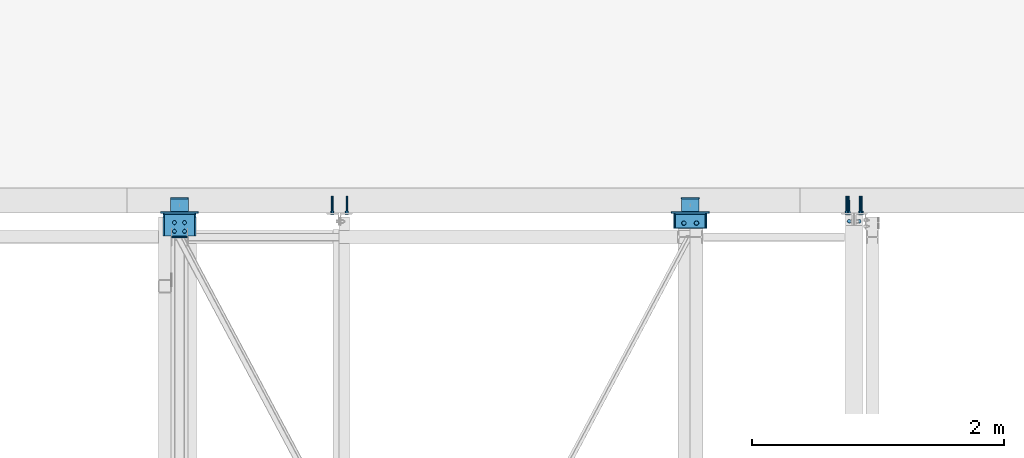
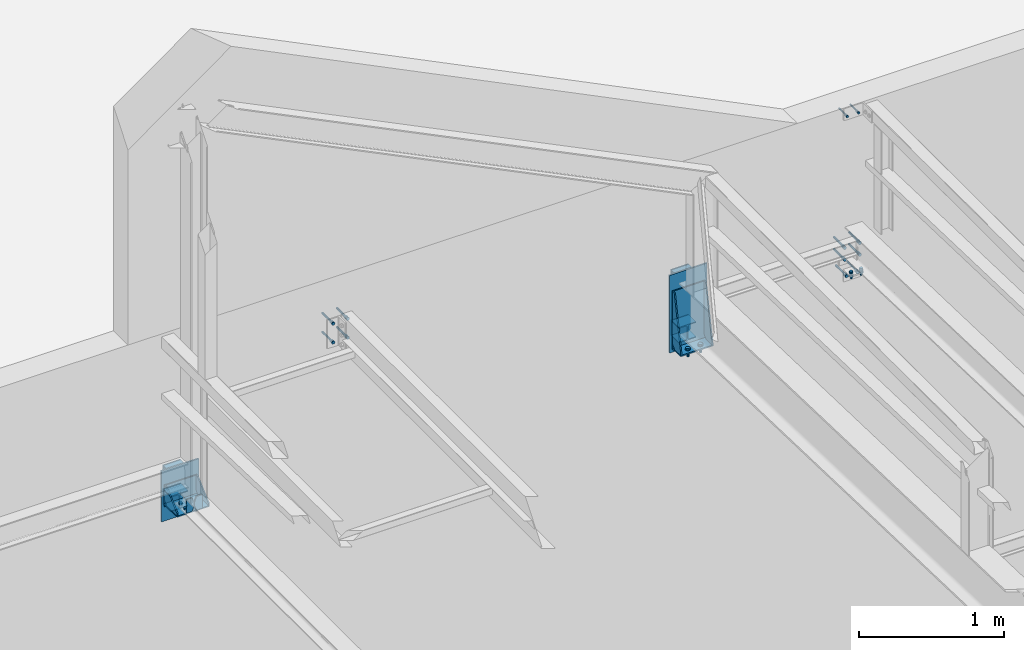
# One storey, part 92 of 123: 20 discrete accessories, 9 mechanical fasteners, 11 elements without a shape of their own.
"""IFC2X3 building model written with IfcOpenShell, lengths in millimetres."""

from ifc_helpers import new_model, si_unit, frame, frame_2d, origin_with_axes, origin_2d_with_axis, place, context, subcontext, project, spatial, polyline, circle_curve, parameter, trimmed, segment, composite_curve, circle, i_section, outline, extrude, source, transform, mapped, material, type_object, element, aggregate, save


model = new_model("IFC2X3")

# Units and contexts
model_context = context("Model", 3, precision=1e-05, world=origin_with_axes())
body_context = subcontext(model_context, "Body", "Model", "MODEL_VIEW")
ifc_project = project(units=[si_unit("LENGTHUNIT", "METRE", prefix="MILLI"), si_unit("AREAUNIT", "SQUARE_METRE"), si_unit("VOLUMEUNIT", "CUBIC_METRE"), si_unit("MASSUNIT", "GRAM", prefix="KILO"), si_unit("TIMEUNIT", "SECOND"), si_unit("PLANEANGLEUNIT", "RADIAN"), si_unit("SOLIDANGLEUNIT", "STERADIAN"), si_unit("THERMODYNAMICTEMPERATUREUNIT", "DEGREE_CELSIUS"), si_unit("LUMINOUSINTENSITYUNIT", "LUMEN")], contexts=[model_context])

# Site, building, storey
site_placement = place(None, origin_with_axes())
site = spatial("IfcSite", under=ifc_project, at=site_placement, Name="Undefined", CompositionType="ELEMENT")
building_placement = place(site_placement, origin_with_axes())
building = spatial("IfcBuilding", under=site, at=building_placement, Name="Undefined", CompositionType="ELEMENT")
storey_placement = place(building_placement, origin_with_axes())
storey = spatial("IfcBuildingStorey", under=building, at=storey_placement, Name="Undefined", CompositionType="ELEMENT", Elevation=0.0)

# Assembly, discrete accessories
assembly_1_placement = place(storey_placement, origin_with_axes())
assembly_1 = element("IfcElementAssembly", 1, at=assembly_1_placement, inside=storey, Name="Steel Assembly", AssemblyPlace="NOTDEFINED", PredefinedType="RIGID_FRAME")
ifc_material_1 = material(Name="STEEL/S235-E24")
discrete_accessory_type_1 = type_object("IfcDiscreteAccessoryType", Name="RAIDISSEUR")
discrete_accessory_1_placement = place(assembly_1_placement, frame((34342.749999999, 15200.0000001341, 7126.5), z_axis=(0.0, 1.0, 0.0), x_axis=(-1.0, 0.0, 0.0)))
discrete_accessory_1 = element("IfcDiscreteAccessory", 2, at=discrete_accessory_1_placement, type_object=discrete_accessory_type_1, material=ifc_material_1, Name="RAIDISSEUR", ObjectType="TOLE10*60", context=body_context, shape_type="SweptSolid", body=[
    extrude(outline(polyline([(0.0, 0.0), (45.0, 0.0), (60.0, 40.0), (60.0, 74.0), (45.0, 114.0), (0.0, 114.0), (0.0, 0.0)])), frame((0.0, 0.0, -5.0), z_axis=(0.0, 0.0, 1.0), x_axis=(1.0, 0.0, 0.0)), (0.0, 0.0, 1.0), 10.0),
])
discrete_accessory_2_placement = place(assembly_1_placement, frame((34277.249999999, 15200.000000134, 7126.5), z_axis=(0.0, 1.0, 0.0), x_axis=(-1.0, 0.0, 0.0)))
discrete_accessory_2 = element("IfcDiscreteAccessory", 3, at=discrete_accessory_2_placement, type_object=discrete_accessory_type_1, material=ifc_material_1, Name="RAIDISSEUR", ObjectType="TOLE10*60", context=body_context, shape_type="SweptSolid", body=[
    extrude(outline(polyline([(0.0, 40.0), (15.0, 0.0), (60.0, 0.0), (60.0, 114.0), (15.0, 114.0), (0.0, 74.0), (0.0, 40.0)])), frame((0.0, 0.0, -5.0), z_axis=(0.0, 0.0, 1.0), x_axis=(1.0, 0.0, 0.0)), (0.0, 0.0, 1.0), 10.0),
])
aggregate(assembly_1, [discrete_accessory_1, discrete_accessory_2])

assembly_2_placement = place(storey_placement, origin_with_axes())
assembly_2 = element("IfcElementAssembly", 4, at=assembly_2_placement, inside=storey, Name="Steel Assembly", AssemblyPlace="NOTDEFINED", PredefinedType="RIGID_FRAME")
discrete_accessory_3_placement = place(assembly_2_placement, frame((34154.9999999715, 15210.0000006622, 7117.00000133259), z_axis=(-1.0, 0.0, 0.0), x_axis=(0.0, 0.0, 1.0)))
discrete_accessory_3 = element("IfcDiscreteAccessory", 5, at=discrete_accessory_3_placement, type_object=discrete_accessory_type_1, material=ifc_material_1, Name="RAIDISSEUR", ObjectType="PL10*155", context=body_context, shape_type="SweptSolid", body=[
    extrude(outline(polyline([(0.0, 0.0), (19.999999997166, 0.0), (154.999206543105, 150.000000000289), (154.999145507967, 170.000000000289), (29.9999970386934, 170.00000000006), (-2.43872305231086e-06, 140.000000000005), (0.0, 0.0)])), frame((0.0, 0.0, -5.0), z_axis=(0.0, 0.0, 1.0), x_axis=(1.0, 0.0, 0.0)), (0.0, 0.0, 1.0), 10.0),
])
discrete_accessory_4_placement = place(assembly_2_placement, frame((34404.9999999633, 15210.0000006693, 7117.0000013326), z_axis=(-1.0, 0.0, 0.0), x_axis=(0.0, 0.0, 1.0)))
discrete_accessory_4 = element("IfcDiscreteAccessory", 6, at=discrete_accessory_4_placement, type_object=discrete_accessory_type_1, material=ifc_material_1, Name="RAIDISSEUR", ObjectType="PL10*155", context=body_context, shape_type="SweptSolid", body=[
    extrude(outline(polyline([(0.0, 0.0), (19.999999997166, 0.0), (154.999206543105, 150.000000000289), (154.999145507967, 170.000000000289), (29.9999970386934, 170.00000000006), (-2.43872305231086e-06, 140.000000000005), (0.0, 0.0)])), frame((0.0, 0.0, -5.0), z_axis=(0.0, 0.0, 1.0), x_axis=(1.0, 0.0, 0.0)), (0.0, 0.0, 1.0), 10.0),
])

assembly_3_placement = place(storey_placement, origin_with_axes())
assembly_3 = element("IfcElementAssembly", 7, at=assembly_3_placement, inside=storey, Name="Steel Assembly", AssemblyPlace="NOTDEFINED", PredefinedType="RIGID_FRAME")
discrete_accessory_5_placement = place(assembly_3_placement, frame((38205.000000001, 15270.0548391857, 7016.48323382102), z_axis=(-1.0, 0.0, 0.0), x_axis=(0.0, 0.0348994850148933, 0.999390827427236)))
discrete_accessory_5 = element("IfcDiscreteAccessory", 8, at=discrete_accessory_5_placement, type_object=discrete_accessory_type_1, material=ifc_material_1, Name="RAIDISSEUR", ObjectType="PL10*110", context=body_context, shape_type="SweptSolid", body=[
    extrude(outline(polyline([(0.0, 0.0), (19.999999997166, 0.0), (476.425659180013, 73.3628463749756), (477.123596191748, 93.3506622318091), (29.981340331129, 108.965207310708), (-0.000279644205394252, 80.0121917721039), (0.0, 0.0)])), frame((0.0, 0.0, -5.0), z_axis=(0.0, 0.0, 1.0), x_axis=(1.0, 0.0, 0.0)), (0.0, 0.0, 1.0), 10.0),
])
discrete_accessory_6_placement = place(assembly_3_placement, frame((38454.9999999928, 15270.0548391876, 7016.48323382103), z_axis=(-1.0, 0.0, 0.0), x_axis=(0.0, 0.0348994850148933, 0.999390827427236)))
discrete_accessory_6 = element("IfcDiscreteAccessory", 9, at=discrete_accessory_6_placement, type_object=discrete_accessory_type_1, material=ifc_material_1, Name="RAIDISSEUR", ObjectType="PL10*110", context=body_context, shape_type="SweptSolid", body=[
    extrude(outline(polyline([(0.0, 0.0), (19.999999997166, 0.0), (476.425659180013, 73.3628463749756), (477.123596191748, 93.3506622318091), (29.981340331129, 108.965207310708), (-0.000279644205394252, 80.0121917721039), (0.0, 0.0)])), frame((0.0, 0.0, -5.0), z_axis=(0.0, 0.0, 1.0), x_axis=(1.0, 0.0, 0.0)), (0.0, 0.0, 1.0), 10.0),
])

# Discrete accessory
discrete_accessory_type_2 = type_object("IfcDiscreteAccessoryType", Name="SABOT")
discrete_accessory_7_placement = place(assembly_2_placement, frame((34279.9999999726, 15380.0000003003, 7112.00000133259), z_axis=(0.0, 0.0, -1.0), x_axis=(0.0, -1.0, 0.0)))
discrete_accessory_7 = element("IfcDiscreteAccessory", 10, at=discrete_accessory_7_placement, type_object=discrete_accessory_type_2, material=ifc_material_1, Name="SABOT", ObjectType="PL10*260", context=body_context, shape_type="SweptSolid", body=[
    extrude(outline(polyline([(169.99999962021, 130.0), (169.99999962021, -130.0), (0.0, -130.0), (0.0, 130.0), (169.99999962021, 130.0)])), frame((0.0, 0.0, -5.0), z_axis=(0.0, 0.0, 1.0), x_axis=(1.0, 0.0, 0.0)), (0.0, 0.0, 1.0), 10.0),
])

discrete_accessory_8_placement = place(assembly_2_placement, frame((34279.9999999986, 15385.0000003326, 7271.99914127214), z_axis=(0.0, 1.0, 0.0), x_axis=(0.0, 0.0, -1.0)))
discrete_accessory_8 = element("IfcDiscreteAccessory", 11, at=discrete_accessory_8_placement, type_object=discrete_accessory_type_2, material=ifc_material_1, Name="SABOT", ObjectType="PL10*260", context=body_context, shape_type="SweptSolid", body=[
    extrude(outline(polyline([(180.000836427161, 130.0), (180.000836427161, -130.0), (0.0, -130.0), (0.0, 130.0), (180.000836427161, 130.0)])), frame((0.0, 0.0, -5.0), z_axis=(0.0, 0.0, 1.0), x_axis=(1.0, 0.0, 0.0)), (0.0, 0.0, 1.0), 10.0),
])

discrete_accessory_9_placement = place(assembly_3_placement, frame((38329.9999999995, 15379.8254852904, 7007.64652722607), z_axis=(0.0, -0.0349029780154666, -0.999390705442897), x_axis=(0.0, -0.999390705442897, 0.0349029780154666)))
discrete_accessory_9 = element("IfcDiscreteAccessory", 12, at=discrete_accessory_9_placement, type_object=discrete_accessory_type_2, material=ifc_material_1, Name="SABOT", ObjectType="PL10*260", context=body_context, shape_type="SweptSolid", body=[
    extrude(outline(polyline([(110.012190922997, 130.0), (110.012190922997, -130.0), (0.0, -130.0), (0.0, 130.0), (110.012190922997, 130.0)])), frame((0.0, 0.0, -5.0), z_axis=(0.0, 0.0, 1.0), x_axis=(1.0, 0.0, 0.0)), (0.0, 0.0, 1.0), 10.0),
])

discrete_accessory_10_placement = place(assembly_3_placement, frame((38330.0000000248, 15385.0000003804, 7490.05830350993), z_axis=(0.0, 1.0, 0.0), x_axis=(0.0, 0.0, -1.0)))
discrete_accessory_10 = element("IfcDiscreteAccessory", 13, at=discrete_accessory_10_placement, type_object=discrete_accessory_type_2, material=ifc_material_1, Name="SABOT", ObjectType="PL10*260", context=body_context, shape_type="SweptSolid", body=[
    extrude(outline(polyline([(494.999999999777, 130.0), (494.999999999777, -130.0), (0.0, -130.0), (0.0, 130.0), (494.999999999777, 130.0)])), frame((0.0, 0.0, -5.0), z_axis=(0.0, 0.0, 1.0), x_axis=(1.0, 0.0, 0.0)), (0.0, 0.0, 1.0), 10.0),
])

# Assembly, discrete accessories
assembly_4_placement = place(storey_placement, origin_with_axes())
assembly_4 = element("IfcElementAssembly", 14, at=assembly_4_placement, inside=storey, Name="Steel Assembly", AssemblyPlace="NOTDEFINED", PredefinedType="RIGID_FRAME")
discrete_accessory_type_3 = type_object("IfcDiscreteAccessoryType", Name="PLAT")
discrete_accessory_11_placement = place(assembly_4_placement, frame((34280.0000000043, 15507.0000000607, 7146.49830350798), z_axis=(0.0, 1.0, 0.0), x_axis=(0.0, 0.0, -1.0)))
discrete_accessory_11 = element("IfcDiscreteAccessory", 15, at=discrete_accessory_11_placement, type_object=discrete_accessory_type_3, material=ifc_material_1, Name="PLAT", ObjectType="PL10*140", context=body_context, shape_type="SweptSolid", body=[
    extrude(outline(polyline([(132.999999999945, 70.0), (132.999999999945, -70.0), (0.0, -70.0), (0.0, 70.0), (132.999999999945, 70.0)])), frame((0.0, 0.0, -5.0), z_axis=(0.0, 0.0, 1.0), x_axis=(1.0, 0.0, 0.0)), (0.0, 0.0, 1.0), 10.0),
])
discrete_accessory_12_placement = place(assembly_4_placement, frame((34280.0000000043, 15507.0000000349, 7346.49830350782), z_axis=(0.0, 1.0, 0.0), x_axis=(0.0, 0.0, -1.0)))
discrete_accessory_12 = element("IfcDiscreteAccessory", 16, at=discrete_accessory_12_placement, type_object=discrete_accessory_type_3, material=ifc_material_1, Name="PLAT", ObjectType="PL10*140", context=body_context, shape_type="SweptSolid", body=[
    extrude(outline(polyline([(132.999999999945, 70.0), (132.999999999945, -70.0), (0.0, -70.0), (0.0, 70.0), (132.999999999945, 70.0)])), frame((0.0, 0.0, -5.0), z_axis=(0.0, 0.0, 1.0), x_axis=(1.0, 0.0, 0.0)), (0.0, 0.0, 1.0), 10.0),
])

assembly_5_placement = place(storey_placement, origin_with_axes())
assembly_5 = element("IfcElementAssembly", 17, at=assembly_5_placement, inside=storey, Name="Steel Assembly", AssemblyPlace="NOTDEFINED", PredefinedType="RIGID_FRAME")
discrete_accessory_13_placement = place(assembly_5_placement, frame((38330.0000000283, 15507.0000002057, 7151.49830350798), z_axis=(0.0, 1.0, 0.0), x_axis=(0.0, 0.0, -1.0)))
discrete_accessory_13 = element("IfcDiscreteAccessory", 18, at=discrete_accessory_13_placement, type_object=discrete_accessory_type_3, material=ifc_material_1, Name="PLAT", ObjectType="PL10*140", context=body_context, shape_type="SweptSolid", body=[
    extrude(outline(polyline([(132.999999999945, 70.0), (132.999999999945, -70.0), (0.0, -70.0), (0.0, 70.0), (132.999999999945, 70.0)])), frame((0.0, 0.0, -5.0), z_axis=(0.0, 0.0, 1.0), x_axis=(1.0, 0.0, 0.0)), (0.0, 0.0, 1.0), 10.0),
])
discrete_accessory_14_placement = place(assembly_5_placement, frame((38330.0000000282, 15507.0000002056, 7576.49830350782), z_axis=(0.0, 1.0, 0.0), x_axis=(0.0, 0.0, -1.0)))
discrete_accessory_14 = element("IfcDiscreteAccessory", 19, at=discrete_accessory_14_placement, type_object=discrete_accessory_type_3, material=ifc_material_1, Name="PLAT", ObjectType="PL10*140", context=body_context, shape_type="SweptSolid", body=[
    extrude(outline(polyline([(132.999999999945, 70.0), (132.999999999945, -70.0), (0.0, -70.0), (0.0, 70.0), (132.999999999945, 70.0)])), frame((0.0, 0.0, -5.0), z_axis=(0.0, 0.0, 1.0), x_axis=(1.0, 0.0, 0.0)), (0.0, 0.0, 1.0), 10.0),
])

# Discrete accessory
ifc_material_2 = material(Name="STEEL/S275-E28")
discrete_accessory_type_4 = type_object("IfcDiscreteAccessoryType", Name="BECHE")
discrete_accessory_15_placement = place(assembly_4_placement, frame((34280.000000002, 15402.0000000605, 7079.99830350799), z_axis=(0.0, 0.0, 1.0), x_axis=(0.0, 1.0, 0.0)))
discrete_accessory_15 = element("IfcDiscreteAccessory", 20, at=discrete_accessory_15_placement, type_object=discrete_accessory_type_4, material=ifc_material_2, Name="BECHE", ObjectType="HEA140", context=body_context, shape_type="SweptSolid", body=[
    extrude(i_section(OverallWidth=140.0, OverallDepth=133.0, WebThickness=5.5, FlangeThickness=8.5, FilletRadius=12.0, at=origin_2d_with_axis()), frame((99.9999999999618, 0.0, 0.0), z_axis=(-1.0, 0.0, 0.0), x_axis=(0.0, -1.0, 0.0)), (0.0, 0.0, 1.0), 100.0),
])

discrete_accessory_16_placement = place(assembly_4_placement, frame((34280.0000000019, 15402.0000000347, 7279.99830350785), z_axis=(0.0, 0.0, 1.0), x_axis=(0.0, 1.0, 0.0)))
discrete_accessory_16 = element("IfcDiscreteAccessory", 21, at=discrete_accessory_16_placement, type_object=discrete_accessory_type_4, material=ifc_material_2, Name="BECHE", ObjectType="HEA140", context=body_context, shape_type="SweptSolid", body=[
    extrude(i_section(OverallWidth=140.0, OverallDepth=133.0, WebThickness=5.5, FlangeThickness=8.5, FilletRadius=12.0, at=origin_2d_with_axis()), frame((99.9999999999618, 0.0, 0.0), z_axis=(-1.0, 0.0, 0.0), x_axis=(0.0, -1.0, 0.0)), (0.0, 0.0, 1.0), 100.0),
])

discrete_accessory_17_placement = place(assembly_5_placement, frame((38330.0000000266, 15402.0000002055, 7084.99830350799), z_axis=(0.0, 0.0, 1.0), x_axis=(0.0, 1.0, 0.0)))
discrete_accessory_17 = element("IfcDiscreteAccessory", 22, at=discrete_accessory_17_placement, type_object=discrete_accessory_type_4, material=ifc_material_2, Name="BECHE", ObjectType="HEA140", context=body_context, shape_type="SweptSolid", body=[
    extrude(i_section(OverallWidth=140.0, OverallDepth=133.0, WebThickness=5.5, FlangeThickness=8.5, FilletRadius=12.0, at=origin_2d_with_axis()), frame((99.9999999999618, 0.0, 0.0), z_axis=(-1.0, 0.0, 0.0), x_axis=(0.0, -1.0, 0.0)), (0.0, 0.0, 1.0), 100.0),
])

discrete_accessory_18_placement = place(assembly_5_placement, frame((38330.0000000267, 15402.0000002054, 7509.99830350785), z_axis=(0.0, 0.0, 1.0), x_axis=(0.0, 1.0, 0.0)))
discrete_accessory_18 = element("IfcDiscreteAccessory", 23, at=discrete_accessory_18_placement, type_object=discrete_accessory_type_4, material=ifc_material_2, Name="BECHE", ObjectType="HEA140", context=body_context, shape_type="SweptSolid", body=[
    extrude(i_section(OverallWidth=140.0, OverallDepth=133.0, WebThickness=5.5, FlangeThickness=8.5, FilletRadius=12.0, at=origin_2d_with_axis()), frame((99.9999999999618, 0.0, 0.0), z_axis=(-1.0, 0.0, 0.0), x_axis=(0.0, -1.0, 0.0)), (0.0, 0.0, 1.0), 100.0),
])

discrete_accessory_type_5 = type_object("IfcDiscreteAccessoryType", Name="PRESCELLEMENT")
discrete_accessory_19_placement = place(assembly_4_placement, frame((34280.0000000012, 15395.9999999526, 7394.99830350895), z_axis=(0.0, 1.0, 0.0), x_axis=(0.0, 0.0, -1.0)))
discrete_accessory_19 = element("IfcDiscreteAccessory", 24, at=discrete_accessory_19_placement, type_object=discrete_accessory_type_5, material=ifc_material_1, Name="PRESCELLEMENT", ObjectType="PL12*300", context=body_context, shape_type="SweptSolid", body=[
    extrude(outline(polyline([(429.999999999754, 150.0), (429.999999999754, -150.0), (0.0, -150.0), (0.0, 150.0), (429.999999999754, 150.0)])), frame((0.0, 0.0, -6.0), z_axis=(0.0, 0.0, 1.0), x_axis=(1.0, 0.0, 0.0)), (0.0, 0.0, 1.0), 12.0),
])

aggregate(assembly_4, [discrete_accessory_11, discrete_accessory_15, discrete_accessory_12, discrete_accessory_16, discrete_accessory_19])

discrete_accessory_20_placement = place(assembly_5_placement, frame((38330.0000000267, 15396.0000001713, 7624.99830350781), z_axis=(0.0, 1.0, 0.0), x_axis=(0.0, 0.0, -1.0)))
discrete_accessory_20 = element("IfcDiscreteAccessory", 25, at=discrete_accessory_20_placement, type_object=discrete_accessory_type_5, material=ifc_material_1, Name="PRESCELLEMENT", ObjectType="PL12*300", context=body_context, shape_type="SweptSolid", body=[
    extrude(outline(polyline([(654.999999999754, 150.0), (654.999999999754, -150.0), (0.0, -150.0), (0.0, 150.0), (654.999999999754, 150.0)])), frame((0.0, 0.0, -6.0), z_axis=(0.0, 0.0, 1.0), x_axis=(1.0, 0.0, 0.0)), (0.0, 0.0, 1.0), 12.0),
])

aggregate(assembly_5, [discrete_accessory_13, discrete_accessory_17, discrete_accessory_14, discrete_accessory_18, discrete_accessory_20])

# Assembly, mechanical fastener
assembly_6_placement = place(storey_placement, origin_with_axes())
assembly_6 = element("IfcElementAssembly", 26, at=assembly_6_placement, inside=storey, Name="Steel Assembly", AssemblyPlace="NOTDEFINED", PredefinedType="RIGID_FRAME")
ifc_material_3 = material(Name="INOX_A4")
discrete_accessory_type_6 = type_object("IfcDiscreteAccessoryType", Name="Bolt assembly")
shared_shape_1 = source(origin_with_axes(), body_context, "Body", "SweptSolid", [
    extrude(circle(Radius=9.0, at=origin_2d_with_axis()), frame((0.0, -9.99988171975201, 0.0), z_axis=(0.0, 1.0, 0.0), x_axis=(1.0, 0.0, 0.0)), (0.0, 0.0, 1.0), 10.1),
    extrude(outline(polyline([(13.85640646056, 0.0), (6.92820323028, 12.0000000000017), (-6.92820323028, 12.0000000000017), (-13.85640646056, 0.0), (-6.92820323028, -12.0000000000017), (6.92820323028, -12.0000000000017), (13.85640646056, 0.0)])), frame((0.0, -16.7998819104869, 0.0), z_axis=(0.0, 1.0, 0.0), x_axis=(1.0, 0.0, 0.0)), (0.0, 0.0, 1.0), 6.8),
    extrude(circle(Radius=8.0, at=origin_2d_with_axis()), frame((0.0, -9.99988171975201, 0.0), z_axis=(0.0, 1.0, 0.0), x_axis=(1.0, 0.0, 0.0)), (0.0, 0.0, 1.0), 146.2),
    extrude(outline(polyline([(13.85640646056, 0.0), (6.92820323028, 12.0000000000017), (-6.92820323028, 12.0000000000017), (-13.85640646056, 0.0), (-6.92820323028, -12.0000000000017), (6.92820323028, -12.0000000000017), (13.85640646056, 0.0)])), frame((0.0, 0.000118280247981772, 0.0), z_axis=(0.0, 1.0, 0.0), x_axis=(1.0, 0.0, 0.0)), (0.0, 0.0, 1.0), 16.0),
])
mechanical_fastener_1_placement = place(assembly_6_placement, frame((35491.4917140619, 15389.9998771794, 8090.00437165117), z_axis=(0.0, 0.0, 1.0), x_axis=(1.0, 0.0, 0.0)))
mechanical_fastener_1 = element("IfcMechanicalFastener", 27, at=mechanical_fastener_1_placement, type_object=discrete_accessory_type_6, material=ifc_material_3, Name="Bolt assembly", NominalDiameter=16.0, NominalLength=146.199996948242, context=body_context, shape_type="MappedRepresentation", body=[
    mapped(shared_shape_1, transform((0.0, 0.0, -80.0))),
    mapped(shared_shape_1, transform((0.0, 0.0, 80.0))),
])
aggregate(assembly_6, [mechanical_fastener_1])

assembly_7_placement = place(storey_placement, origin_with_axes())
assembly_7 = element("IfcElementAssembly", 28, at=assembly_7_placement, inside=storey, Name="Steel Assembly", AssemblyPlace="NOTDEFINED", PredefinedType="RIGID_FRAME")
mechanical_fastener_2_placement = place(assembly_7_placement, frame((35607.4917140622, 15389.999877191, 8090.00437165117), z_axis=(0.0, 0.0, -1.0), x_axis=(-1.0, 0.0, 0.0)))
mechanical_fastener_2 = element("IfcMechanicalFastener", 29, at=mechanical_fastener_2_placement, type_object=discrete_accessory_type_6, material=ifc_material_3, Name="Bolt assembly", NominalDiameter=16.0, NominalLength=146.199996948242, context=body_context, shape_type="MappedRepresentation", body=[
    mapped(shared_shape_1, transform((0.0, 0.0, -80.0))),
    mapped(shared_shape_1, transform((0.0, 0.0, 80.0))),
])
aggregate(assembly_7, [mechanical_fastener_2])

assembly_8_placement = place(storey_placement, origin_with_axes())
assembly_8 = element("IfcElementAssembly", 30, at=assembly_8_placement, inside=storey, Name="Steel Assembly", AssemblyPlace="NOTDEFINED", PredefinedType="RIGID_FRAME")
mechanical_fastener_3_placement = place(assembly_8_placement, frame((39630.000000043, 15389.9998740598, 7137.38960015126), z_axis=(-1.0, 0.0, 0.0), x_axis=(0.0, 0.0, 1.0)))
mechanical_fastener_3 = element("IfcMechanicalFastener", 31, at=mechanical_fastener_3_placement, type_object=discrete_accessory_type_6, material=ifc_material_3, Name="Bolt assembly", NominalDiameter=16.0, NominalLength=146.199996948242, context=body_context, shape_type="MappedRepresentation", body=[
    mapped(shared_shape_1, transform((0.0, 0.0, -45.0))),
    mapped(shared_shape_1, transform((0.0, 0.0, 45.0))),
])

assembly_9_placement = place(storey_placement, origin_with_axes())
assembly_9 = element("IfcElementAssembly", 32, at=assembly_9_placement, inside=storey, Name="Steel Assembly", AssemblyPlace="NOTDEFINED", PredefinedType="RIGID_FRAME")
mechanical_fastener_4_placement = place(assembly_9_placement, frame((39570.0000000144, 15389.9998704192, 7329.93135683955), z_axis=(0.0, 0.0, 1.0), x_axis=(1.0, 0.0, 0.0)))
mechanical_fastener_4 = element("IfcMechanicalFastener", 33, at=mechanical_fastener_4_placement, type_object=discrete_accessory_type_6, material=ifc_material_3, Name="Bolt assembly", NominalDiameter=16.0, NominalLength=146.199996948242, context=body_context, shape_type="MappedRepresentation", body=[
    mapped(shared_shape_1, transform((0.0, 0.0, -50.0))),
    mapped(shared_shape_1, transform((0.0, 0.0, 50.0))),
])
aggregate(assembly_9, [mechanical_fastener_4])

assembly_10_placement = place(storey_placement, origin_with_axes())
assembly_10 = element("IfcElementAssembly", 34, at=assembly_10_placement, inside=storey, Name="Steel Assembly", AssemblyPlace="NOTDEFINED", PredefinedType="RIGID_FRAME")
mechanical_fastener_5_placement = place(assembly_10_placement, frame((39690.0000000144, 15389.9998704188, 7329.93135683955), z_axis=(0.0, 0.0, -1.0), x_axis=(-1.0, 0.0, 0.0)))
mechanical_fastener_5 = element("IfcMechanicalFastener", 35, at=mechanical_fastener_5_placement, type_object=discrete_accessory_type_6, material=ifc_material_3, Name="Bolt assembly", NominalDiameter=16.0, NominalLength=146.199996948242, context=body_context, shape_type="MappedRepresentation", body=[
    mapped(shared_shape_1, transform((0.0, 0.0, -50.0))),
    mapped(shared_shape_1, transform((0.0, 0.0, 50.0))),
])
aggregate(assembly_10, [mechanical_fastener_5])

assembly_11_placement = place(storey_placement, origin_with_axes())
assembly_11 = element("IfcElementAssembly", 36, at=assembly_11_placement, inside=storey, Name="Steel Assembly", AssemblyPlace="NOTDEFINED", PredefinedType="RIGID_FRAME")
shared_shape_2 = source(origin_with_axes(), body_context, "Body", "SweptSolid", [
    extrude(circle(Radius=7.0, at=origin_2d_with_axis()), frame((0.0, -10.0, 0.0), z_axis=(0.0, 1.0, 0.0), x_axis=(1.0, 0.0, 0.0)), (0.0, 0.0, 1.0), 10.1),
    extrude(outline(polyline([(10.39230484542, 0.0), (5.19615242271, 9.00000000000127), (-5.19615242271, 9.00000000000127), (-10.39230484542, 0.0), (-5.19615242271, -9.00000000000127), (5.19615242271, -9.00000000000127), (10.39230484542, 0.0)])), frame((0.0, -16.8000001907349, 0.0), z_axis=(0.0, 1.0, 0.0), x_axis=(1.0, 0.0, 0.0)), (0.0, 0.0, 1.0), 6.8),
    extrude(circle(Radius=6.0, at=origin_2d_with_axis()), frame((0.0, -10.0, 0.0), z_axis=(0.0, 1.0, 0.0), x_axis=(1.0, 0.0, 0.0)), (0.0, 0.0, 1.0), 112.2),
    extrude(outline(polyline([(10.96965511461, 0.0), (5.484827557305, 9.50000000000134), (-5.484827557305, 9.50000000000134), (-10.96965511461, 0.0), (-5.484827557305, -9.50000000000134), (5.484827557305, -9.50000000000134), (10.96965511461, 0.0)])), frame((0.0, 0.0, 0.0), z_axis=(0.0, 1.0, 0.0), x_axis=(1.0, 0.0, 0.0)), (0.0, 0.0, 1.0), 12.0),
])
mechanical_fastener_6_placement = place(assembly_11_placement, frame((39590.0, 15390.0, 8480.0), z_axis=(0.0, 0.0, 1.0), x_axis=(1.0, 0.0, 0.0)))
mechanical_fastener_6 = element("IfcMechanicalFastener", 37, at=mechanical_fastener_6_placement, type_object=discrete_accessory_type_6, material=ifc_material_3, Name="Bolt assembly", NominalDiameter=12.0, NominalLength=112.199996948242, context=body_context, shape_type="MappedRepresentation", body=[
    mapped(shared_shape_2, transform((0.0, 0.0, 0.0))),
    mapped(shared_shape_2, transform((90.0, 0.0, 0.0))),
])
aggregate(assembly_11, [mechanical_fastener_6])

# Mechanical fastener
ifc_material_4 = material(Name="HR10.9")
shared_shape_3 = source(origin_with_axes(), body_context, "Body", "SweptSolid", [
    extrude(circle(Radius=9.0, at=origin_2d_with_axis()), frame((0.0, -8.40000012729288, 0.0), z_axis=(0.0, 1.0, 0.0), x_axis=(1.0, 0.0, 0.0)), (0.0, 0.0, 1.0), 8.5),
    extrude(outline(composite_curve([segment(polyline([(-9.0, 9.0), (9.0, 9.0)]), True, "CONTINUOUS"), segment(trimmed(circle_curve(frame_2d((9.0, 0.0), x_axis=(0.0, 1.0)), 9.0), [parameter(0.0)], [parameter(3.14159265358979)], False, "PARAMETER"), True, "CONTINUOUS"), segment(polyline([(9.0, -9.0), (-9.0, -9.0)]), True, "CONTINUOUS"), segment(trimmed(circle_curve(frame_2d((-9.0, 0.0), x_axis=(0.0, -1.0)), 9.0), [parameter(0.0)], [parameter(3.14159265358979)], False, "PARAMETER"), True, "DISCONTINUOUS")], self_intersect=False)), frame((0.0, -0.100000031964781, 0.0), z_axis=(0.0, 1.0, 0.0), x_axis=(1.0, 0.0, 0.0)), (0.0, 0.0, 1.0), 10.1),
    extrude(outline(polyline([(13.85640646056, 0.0), (6.92820323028, 12.0000000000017), (-6.92820323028, 12.0000000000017), (-13.85640646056, 0.0), (-6.92820323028, -12.0000000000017), (6.92820323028, -12.0000000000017), (13.85640646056, 0.0)])), frame((0.0, -22.5000001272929, 0.0), z_axis=(0.0, 1.0, 0.0), x_axis=(1.0, 0.0, 0.0)), (0.0, 0.0, 1.0), 10.0),
    extrude(circle(Radius=8.0, at=origin_2d_with_axis()), frame((0.0, -12.5000001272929, 0.0), z_axis=(0.0, 1.0, 0.0), x_axis=(1.0, 0.0, 0.0)), (0.0, 0.0, 1.0), 50.0),
    extrude(circle(Radius=15.0, at=origin_2d_with_axis()), frame((0.0, -12.5000001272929, 0.0), z_axis=(0.0, 1.0, 0.0), x_axis=(1.0, 0.0, 0.0)), (0.0, 0.0, 1.0), 4.0),
    extrude(circle(Radius=15.0, at=origin_2d_with_axis()), frame((0.0, 9.99999996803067, 0.0), z_axis=(0.0, 1.0, 0.0), x_axis=(1.0, 0.0, 0.0)), (0.0, 0.0, 1.0), 4.0),
    extrude(outline(polyline([(15.58845726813, 0.0), (7.794228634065, 13.5000000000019), (-7.794228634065, 13.5000000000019), (-15.58845726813, 0.0), (-7.794228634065, -13.5000000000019), (7.794228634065, -13.5000000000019), (15.58845726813, 0.0)])), frame((0.0, 13.9999999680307, 0.0), z_axis=(0.0, 1.0, 0.0), x_axis=(1.0, 0.0, 0.0)), (0.0, 0.0, 1.0), 15.0),
])
mechanical_fastener_7_placement = place(assembly_2_placement, frame((34279.9999999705, 15245.0000007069, 7116.99999987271), z_axis=(-1.0, 0.0, 0.0), x_axis=(0.0, 1.0, 0.0)))
mechanical_fastener_7 = element("IfcMechanicalFastener", 38, at=mechanical_fastener_7_placement, type_object=discrete_accessory_type_6, material=ifc_material_4, Name="Bolt assembly", NominalDiameter=16.0, NominalLength=50.0, context=body_context, shape_type="MappedRepresentation", body=[
    mapped(shared_shape_3, transform((0.0, 0.0, -40.0))),
    mapped(shared_shape_3, transform((70.0, 0.0, -40.0))),
    mapped(shared_shape_3, transform((0.0, 0.0, 40.0))),
    mapped(shared_shape_3, transform((70.0, 0.0, 40.0))),
])

aggregate(assembly_2, [mechanical_fastener_7, discrete_accessory_3, discrete_accessory_4, discrete_accessory_7, discrete_accessory_8])

shared_shape_4 = source(origin_with_axes(), body_context, "Body", "SweptSolid", [
    extrude(circle(Radius=11.0, at=origin_2d_with_axis()), frame((0.0, 0.000118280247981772, 0.0), z_axis=(0.0, 1.0, 0.0), x_axis=(1.0, 0.0, 0.0)), (0.0, 0.0, 1.0), 10.1),
    extrude(outline(polyline([(17.3205080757, 0.0), (8.66025403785, 15.0000000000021), (-8.66025403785, 15.0000000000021), (-17.3205080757, 0.0), (-8.66025403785, -15.0000000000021), (8.66025403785, -15.0000000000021), (17.3205080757, 0.0)])), frame((0.0, -16.9998602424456, 0.0), z_axis=(0.0, 1.0, 0.0), x_axis=(1.0, 0.0, 0.0)), (0.0, 0.0, 1.0), 13.0),
    extrude(circle(Radius=10.0, at=origin_2d_with_axis()), frame((0.0, -3.99986024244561, 0.0), z_axis=(0.0, 1.0, 0.0), x_axis=(1.0, 0.0, 0.0)), (0.0, 0.0, 1.0), 60.0),
    extrude(circle(Radius=18.5, at=origin_2d_with_axis()), frame((0.0, -3.99986024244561, 0.0), z_axis=(0.0, 1.0, 0.0), x_axis=(1.0, 0.0, 0.0)), (0.0, 0.0, 1.0), 4.0),
    extrude(circle(Radius=18.5, at=origin_2d_with_axis()), frame((0.0, 10.0001397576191, 0.0), z_axis=(0.0, 1.0, 0.0), x_axis=(1.0, 0.0, 0.0)), (0.0, 0.0, 1.0), 4.0),
    extrude(outline(polyline([(18.47520861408, 0.0), (9.23760430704, 16.0000000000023), (-9.23760430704, 16.0000000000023), (-18.47520861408, 0.0), (-9.23760430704, -16.0000000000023), (9.23760430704, -16.0000000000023), (18.47520861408, 0.0)])), frame((0.0, 14.0001397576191, 0.0), z_axis=(0.0, 1.0, 0.0), x_axis=(1.0, 0.0, 0.0)), (0.0, 0.0, 1.0), 18.0),
])
mechanical_fastener_8_placement = place(assembly_3_placement, frame((38329.9999999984, 15310.0304723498, 7015.0872543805), z_axis=(-1.0, 0.0, 0.0), x_axis=(0.0, 0.999390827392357, -0.0348994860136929)))
mechanical_fastener_8 = element("IfcMechanicalFastener", 39, at=mechanical_fastener_8_placement, type_object=discrete_accessory_type_6, material=ifc_material_4, Name="Bolt assembly", NominalDiameter=20.0, NominalLength=60.0, context=body_context, shape_type="MappedRepresentation", body=[
    mapped(shared_shape_4, transform((0.0, 0.0, -50.0))),
    mapped(shared_shape_4, transform((0.0, 0.0, 50.0))),
])

aggregate(assembly_3, [mechanical_fastener_8, discrete_accessory_5, discrete_accessory_6, discrete_accessory_9, discrete_accessory_10])

shared_shape_5 = source(origin_with_axes(), body_context, "Body", "SweptSolid", [
    extrude(circle(Radius=9.0, at=origin_2d_with_axis()), frame((0.0, 0.0, 0.0), z_axis=(0.0, 1.0, 0.0), x_axis=(1.0, 0.0, 0.0)), (0.0, 0.0, 1.0), 10.1),
    extrude(outline(polyline([(13.85640646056, 0.0), (6.92820323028, 12.0000000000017), (-6.92820323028, 12.0000000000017), (-13.85640646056, 0.0), (-6.92820323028, -12.0000000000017), (6.92820323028, -12.0000000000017), (13.85640646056, 0.0)])), frame((0.0, -13.9999978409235, 0.0), z_axis=(0.0, 1.0, 0.0), x_axis=(1.0, 0.0, 0.0)), (0.0, 0.0, 1.0), 10.0),
    extrude(circle(Radius=8.0, at=origin_2d_with_axis()), frame((0.0, -4.00000022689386, 0.0), z_axis=(0.0, 1.0, 0.0), x_axis=(1.0, 0.0, 0.0)), (0.0, 0.0, 1.0), 50.0),
    extrude(circle(Radius=15.0, at=origin_2d_with_axis()), frame((0.0, -4.00000022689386, 0.0), z_axis=(0.0, 1.0, 0.0), x_axis=(1.0, 0.0, 0.0)), (0.0, 0.0, 1.0), 4.0),
    extrude(circle(Radius=15.0, at=origin_2d_with_axis()), frame((0.0, 9.99999996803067, 0.0), z_axis=(0.0, 1.0, 0.0), x_axis=(1.0, 0.0, 0.0)), (0.0, 0.0, 1.0), 4.0),
    extrude(outline(polyline([(15.58845726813, 0.0), (7.794228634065, 13.5000000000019), (-7.794228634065, 13.5000000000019), (-15.58845726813, 0.0), (-7.794228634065, -13.5000000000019), (7.794228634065, -13.5000000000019), (15.58845726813, 0.0)])), frame((0.0, 13.9999999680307, 0.0), z_axis=(0.0, 1.0, 0.0), x_axis=(1.0, 0.0, 0.0)), (0.0, 0.0, 1.0), 15.0),
])
mechanical_fastener_9_placement = place(assembly_8_placement, frame((39630.0000000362, 15325.0213120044, 7194.65870497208), z_axis=(-1.0, 0.0, 0.0), x_axis=(0.0, 0.999390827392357, -0.0348994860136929)))
mechanical_fastener_9 = element("IfcMechanicalFastener", 40, at=mechanical_fastener_9_placement, type_object=discrete_accessory_type_6, material=ifc_material_4, Name="Bolt assembly", NominalDiameter=16.0, NominalLength=50.0, context=body_context, shape_type="MappedRepresentation", body=[
    mapped(shared_shape_5, transform((0.0, 0.0, -40.0))),
    mapped(shared_shape_5, transform((0.0, 0.0, 40.0))),
])

aggregate(assembly_8, [mechanical_fastener_9, mechanical_fastener_3])

save(model, "model.ifc")
